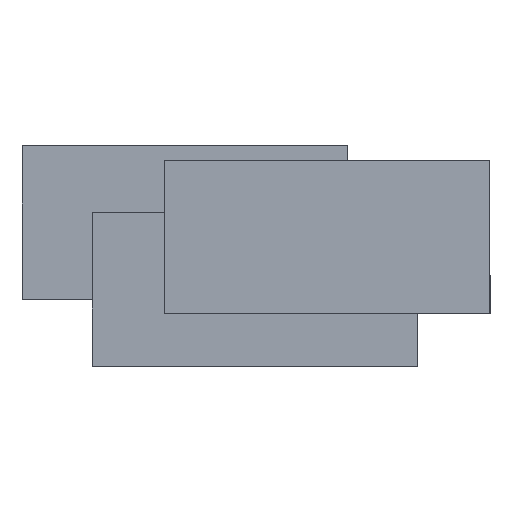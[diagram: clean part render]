
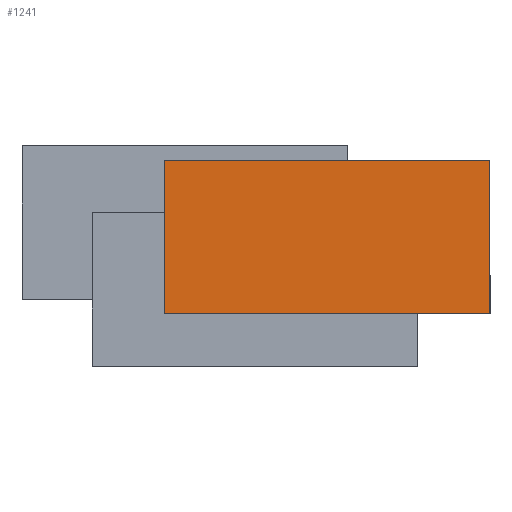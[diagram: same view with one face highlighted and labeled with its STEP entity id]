
A CAD part, front view. The second image highlights one B-rep face of the part: STEP entity #1241.
In plain terms, the highlighted planar face has unit normal (0, -1, 0).
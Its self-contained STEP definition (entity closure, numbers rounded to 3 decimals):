
#1202=CARTESIAN_POINT('Axis2P3D Location',(0.,0.,0.)) ;
#1207=CARTESIAN_POINT('Line Origine',(-90.,0.,0.)) ;
#1211=CARTESIAN_POINT('Vertex',(-90.,0.,42.5)) ;
#1213=CARTESIAN_POINT('Vertex',(-90.,0.,-42.5)) ;
#1216=CARTESIAN_POINT('Line Origine',(0.,0.,-42.5)) ;
#1220=CARTESIAN_POINT('Vertex',(90.,0.,-42.5)) ;
#1223=CARTESIAN_POINT('Line Origine',(90.,0.,0.)) ;
#1227=CARTESIAN_POINT('Vertex',(90.,0.,42.5)) ;
#1230=CARTESIAN_POINT('Line Origine',(0.,0.,42.5)) ;
#1203=DIRECTION('Axis2P3D Direction',(0.,1.,0.)) ;
#1204=DIRECTION('Axis2P3D XDirection',(-1.,0.,0.)) ;
#1208=DIRECTION('Vector Direction',(0.,0.,1.)) ;
#1217=DIRECTION('Vector Direction',(-1.,0.,0.)) ;
#1224=DIRECTION('Vector Direction',(0.,0.,-1.)) ;
#1231=DIRECTION('Vector Direction',(1.,0.,0.)) ;
#1205=AXIS2_PLACEMENT_3D('Plane Axis2P3D',#1202,#1203,#1204) ;
#1236=ORIENTED_EDGE('',*,*,#1215,.T.) ;
#1237=ORIENTED_EDGE('',*,*,#1222,.T.) ;
#1238=ORIENTED_EDGE('',*,*,#1229,.T.) ;
#1239=ORIENTED_EDGE('',*,*,#1234,.T.) ;
#1209=VECTOR('Line Direction',#1208,1.) ;
#1218=VECTOR('Line Direction',#1217,1.) ;
#1225=VECTOR('Line Direction',#1224,1.) ;
#1232=VECTOR('Line Direction',#1231,1.) ;
#1241=ADVANCED_FACE('\X2\96F64EF651E04F554F53\X0\',(#1240),#1206,.F.) ;
#1215=EDGE_CURVE('',#1212,#1214,#1210,.F.) ;
#1222=EDGE_CURVE('',#1214,#1221,#1219,.F.) ;
#1229=EDGE_CURVE('',#1221,#1228,#1226,.F.) ;
#1234=EDGE_CURVE('',#1228,#1212,#1233,.F.) ;
#1235=EDGE_LOOP('',(#1236,#1237,#1238,#1239)) ;
#1240=FACE_OUTER_BOUND('',#1235,.T.) ;
#1210=LINE('Line',#1207,#1209) ;
#1219=LINE('Line',#1216,#1218) ;
#1226=LINE('Line',#1223,#1225) ;
#1233=LINE('Line',#1230,#1232) ;
#1206=PLANE('',#1205) ;
#1212=VERTEX_POINT('',#1211) ;
#1214=VERTEX_POINT('',#1213) ;
#1221=VERTEX_POINT('',#1220) ;
#1228=VERTEX_POINT('',#1227) ;
